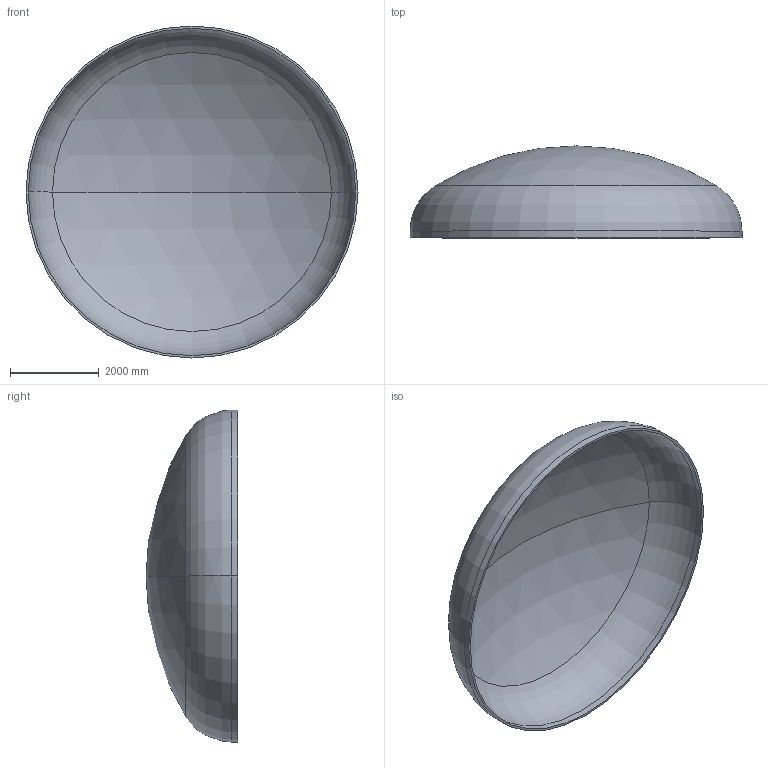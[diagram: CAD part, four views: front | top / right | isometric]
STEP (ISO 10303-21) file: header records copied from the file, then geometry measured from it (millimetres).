
FILE_DESCRIPTION (( 'STEP AP203' ), '1' );
FILE_NAME ('DIN 28013 Korbbogenform_-_Boden DIN 28013 - 7500 x 150 - I - s=50.step', '2016-07-04T10:54:39', ( '' ), ( '' ), 'SwSTEP 2.0', 'SolidWorks 2013', '' );
FILE_SCHEMA (( 'CONFIG_CONTROL_DESIGN' ));
Length unit declared in the file: millimetre
Products named in the file (1): DIN 28013 Korbbogenform_-_Boden DIN 28013 - 7500 x 150 - I - s=50
Bounding box: 7500 x 2077.26 x 7500 mm (x, y, z)
Volume: 3208075553.3 mm3; surface area: 129498451.7 mm2
Topology: 1 solids, 1 shells, 13 faces, 24 edges, 14 vertices
Faces by surface type: torus 4, cylinder 4, sphere 4, plane 1
Entity records: 407 total; most frequent: DIRECTION 72, CARTESIAN_POINT 52, ORIENTED_EDGE 48, AXIS2_PLACEMENT_3D 34, EDGE_CURVE 24, CIRCLE 20, VERTEX_POINT 14, EDGE_LOOP 14
